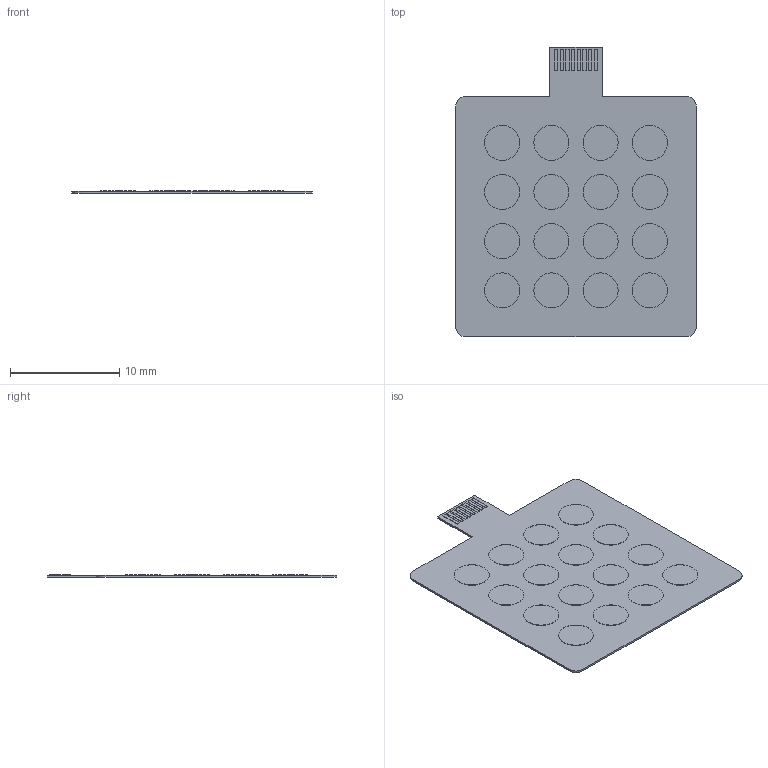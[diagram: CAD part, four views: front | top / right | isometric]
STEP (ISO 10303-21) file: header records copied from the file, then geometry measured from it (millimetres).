
FILE_DESCRIPTION(('Open CASCADE Model'),'2;1');
FILE_NAME('flexible-matrix-fsr-22-mm.step','2026-11-14T19:42:59',( 'Author'),('Open CASCADE'),'Open CASCADE STEP processor 8.0', 'Open CASCADE 8.0','Unknown');
FILE_SCHEMA(('AP242_MANAGED_MODEL_BASED_3D_ENGINEERING_MIM_LF {1 0 10303 442 1 1 4 }' ));
Length unit declared in the file: millimetre
Products named in the file (1): Flexible Matrix FSR 22 mm
Bounding box: 22 x 26.5 x 0.22 mm (x, y, z)
Volume: 96.2 mm3; surface area: 1300.9 mm2
Topology: 25 solids, 25 shells, 122 faces, 216 edges, 144 vertices
Faces by surface type: plane 106, cylinder 16
Full cylindrical faces by diameter (mm): 3.2 x16
Entity records: 5861 total; most frequent: DIRECTION 926, CARTESIAN_POINT 915, LINE 584, VECTOR 584, ORIENTED_EDGE 432, PCURVE 432, DEFINITIONAL_REPRESENTATION 432, EDGE_CURVE 216
